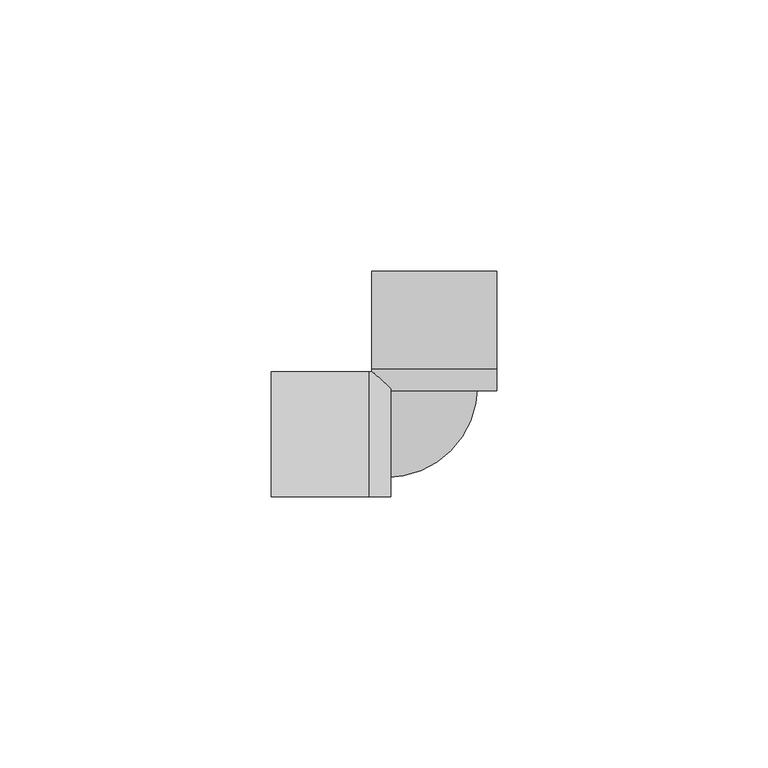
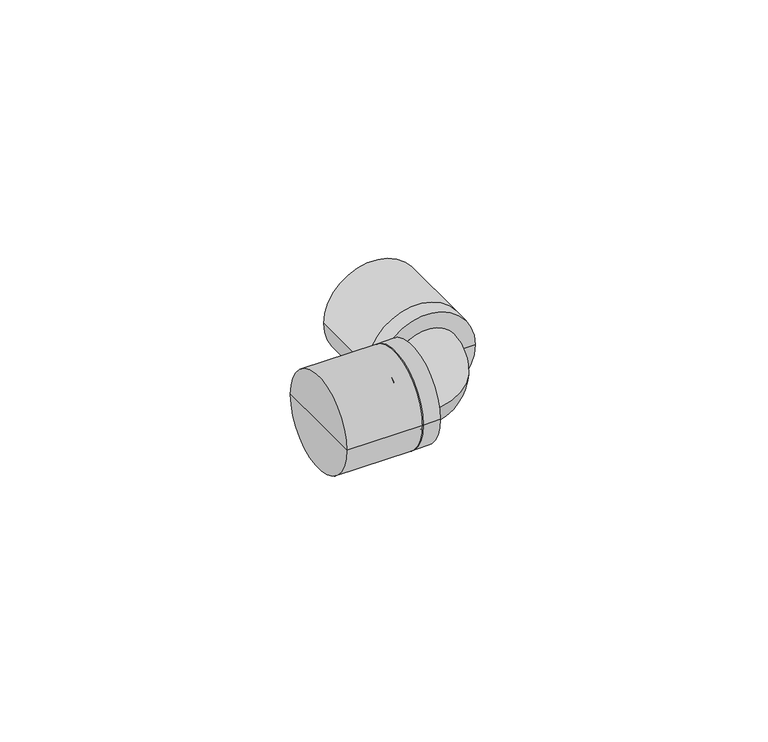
"""IFC4 building model written with IfcOpenShell, lengths in millimetres: pipe fitting geometry, KAN-therm Push 18x2 kolano : KAN-therm Push 18x2 kolano."""

from ifc_helpers import new_model, si_unit, point, frame, origin, place, context, project, spatial, circle_curve, ellipse_curve, trimmed, source, transform, mapped, element, save
from ifc_brep_helpers import plane_surface, cylinder_surface, revolved_surface, advanced_brep


def pipe_fitting_20f2416b(model_context):
    return source(origin(), model_context, "Body", "AdvancedBrep", [
        advanced_brep(
        [(-12.0, 11.5, 0.0), (-12.0, -11.5, 0.0), (-12.0, 0.0, 0.0), (-8.0, 11.5, 0.0), (-8.0, -11.5, 0.0), (-8.0, 0.0, 0.0)],
        [
            (0, 1, circle_curve(frame((-12.0, 0.0, 0.0), z_axis=(-1.0, 0.0, 0.0), x_axis=(0.0, -1.0, 0.0)), 11.5)),
            (1, 2),
            (2, 0),
            (1, 0, circle_curve(frame((-12.0, 0.0, 0.0), z_axis=(-1.0, 0.0, 0.0), x_axis=(0.0, -1.0, 0.0)), 11.5)),
            (3, 4, circle_curve(frame((-8.0, 0.0, 0.0), z_axis=(-1.0, 0.0, 0.0), x_axis=(0.0, -1.0, 0.0)), 11.5)),
            (4, 1),
            (0, 3),
            (4, 3, circle_curve(frame((-8.0, 0.0, 0.0), z_axis=(-1.0, 0.0, 0.0), x_axis=(0.0, -1.0, 0.0)), 11.5)),
            (5, 4),
            (3, 5),
        ],
        [
            plane_surface(frame((-12.0, 0.0, 0.0), z_axis=(-1.0, 0.0, 0.0), x_axis=(0.0, -1.0, 0.0))),
            cylinder_surface(frame((-2007.0, 0.0, 0.0), z_axis=(1.0, 0.0, 0.0), x_axis=(0.0, -1.0, 0.0)), 11.5),
            plane_surface(frame((-8.0, 0.0, 0.0), z_axis=(1.0, 0.0, 0.0), x_axis=(0.0, -1.0, 0.0))),
        ],
        [
            (0, [[1, 2, 3]]),
            (0, [[4, -3, -2]]),
            (1, [[5, 6, -1, 7]]),
            (1, [[8, -7, -4, -6]]),
            (2, [[9, -5, 10]]),
            (2, [[-10, -8, -9]]),
        ],
    ),
        advanced_brep(
        [(-30.0, 11.5, 0.0), (-30.0, -11.5, 0.0), (-30.0, 0.0, 0.0), (-12.0, 11.5, 0.0), (-12.0, -11.5, 0.0), (-12.0, 0.0, 0.0)],
        [
            (0, 1, circle_curve(frame((-30.0, 0.0, 0.0), z_axis=(-1.0, 0.0, 0.0), x_axis=(0.0, -1.0, 0.0)), 11.5)),
            (1, 2),
            (2, 0),
            (1, 0, circle_curve(frame((-30.0, 0.0, 0.0), z_axis=(-1.0, 0.0, 0.0), x_axis=(0.0, -1.0, 0.0)), 11.5)),
            (3, 4, circle_curve(frame((-12.0, 0.0, 0.0), z_axis=(-1.0, 0.0, 0.0), x_axis=(0.0, -1.0, 0.0)), 11.5)),
            (4, 1),
            (0, 3),
            (4, 3, circle_curve(frame((-12.0, 0.0, 0.0), z_axis=(-1.0, 0.0, 0.0), x_axis=(0.0, -1.0, 0.0)), 11.5)),
            (5, 4),
            (3, 5),
        ],
        [
            plane_surface(frame((-30.0, 0.0, 0.0), z_axis=(-1.0, 0.0, 0.0), x_axis=(0.0, -1.0, 0.0))),
            cylinder_surface(frame((-2007.0, 0.0, 0.0), z_axis=(1.0, 0.0, 0.0), x_axis=(0.0, -1.0, 0.0)), 11.5),
            plane_surface(frame((-12.0, 0.0, 0.0), z_axis=(1.0, 0.0, 0.0), x_axis=(0.0, -1.0, 0.0))),
        ],
        [
            (0, [[1, 2, 3]]),
            (0, [[4, -3, -2]]),
            (1, [[5, 6, -1, 7]]),
            (1, [[8, -7, -4, -6]]),
            (2, [[9, -5, 10]]),
            (2, [[-10, -8, -9]]),
        ],
    ),
        advanced_brep(
        [(11.5, 12.0, 0.0), (-11.5, 12.0, 0.0), (0.0, 12.0, 0.0), (11.5, 8.0, 0.0), (-11.5, 8.0, 0.0), (0.0, 8.0, 0.0)],
        [
            (0, 1, circle_curve(frame((0.0, 12.0, 0.0), z_axis=(0.0, 1.0, 0.0), x_axis=(-1.0, 0.0, 0.0)), 11.5)),
            (1, 2),
            (2, 0),
            (1, 0, circle_curve(frame((0.0, 12.0, 0.0), z_axis=(0.0, 1.0, 0.0), x_axis=(-1.0, 0.0, 0.0)), 11.5)),
            (3, 4, circle_curve(frame((0.0, 8.0, 0.0), z_axis=(0.0, 1.0, 0.0), x_axis=(-1.0, 0.0, 0.0)), 11.5)),
            (4, 1),
            (0, 3),
            (4, 3, circle_curve(frame((0.0, 8.0, 0.0), z_axis=(0.0, 1.0, 0.0), x_axis=(-1.0, 0.0, 0.0)), 11.5)),
            (5, 4),
            (3, 5),
        ],
        [
            plane_surface(frame((0.0, 12.0, 0.0), z_axis=(0.0, 1.0, 0.0), x_axis=(-1.0, 0.0, 0.0))),
            cylinder_surface(frame((0.0, 2007.0, 0.0), z_axis=(0.0, -1.0, 0.0), x_axis=(-1.0, 0.0, 0.0)), 11.5),
            plane_surface(frame((0.0, 8.0, 0.0), z_axis=(0.0, -1.0, 0.0), x_axis=(-1.0, 0.0, 0.0))),
        ],
        [
            (0, [[1, 2, 3]]),
            (0, [[4, -3, -2]]),
            (1, [[5, 6, -1, 7]]),
            (1, [[8, -7, -4, -6]]),
            (2, [[9, -5, 10]]),
            (2, [[-10, -8, -9]]),
        ],
    ),
        advanced_brep(
        [(11.5, 30.0, 0.0), (-11.5, 30.0, 0.0), (0.0, 30.0, 0.0), (11.5, 12.0, 0.0), (-11.5, 12.0, 0.0), (0.0, 12.0, 0.0)],
        [
            (0, 1, circle_curve(frame((0.0, 30.0, 0.0), z_axis=(0.0, 1.0, 0.0), x_axis=(-1.0, 0.0, 0.0)), 11.5)),
            (1, 2),
            (2, 0),
            (1, 0, circle_curve(frame((0.0, 30.0, 0.0), z_axis=(0.0, 1.0, 0.0), x_axis=(-1.0, 0.0, 0.0)), 11.5)),
            (3, 4, circle_curve(frame((0.0, 12.0, 0.0), z_axis=(0.0, 1.0, 0.0), x_axis=(-1.0, 0.0, 0.0)), 11.5)),
            (4, 1),
            (0, 3),
            (4, 3, circle_curve(frame((0.0, 12.0, 0.0), z_axis=(0.0, 1.0, 0.0), x_axis=(-1.0, 0.0, 0.0)), 11.5)),
            (5, 4),
            (3, 5),
        ],
        [
            plane_surface(frame((0.0, 30.0, 0.0), z_axis=(0.0, 1.0, 0.0), x_axis=(-1.0, 0.0, 0.0))),
            cylinder_surface(frame((0.0, 2007.0, 0.0), z_axis=(0.0, -1.0, 0.0), x_axis=(-1.0, 0.0, 0.0)), 11.5),
            plane_surface(frame((0.0, 12.0, 0.0), z_axis=(0.0, -1.0, 0.0), x_axis=(-1.0, 0.0, 0.0))),
        ],
        [
            (0, [[1, 2, 3]]),
            (0, [[4, -3, -2]]),
            (1, [[5, 6, -1, 7]]),
            (1, [[8, -7, -4, -6]]),
            (2, [[9, -5, 10]]),
            (2, [[-10, -8, -9]]),
        ],
    ),
        advanced_brep(
        [(-8.0, 12.0, 0.0), (8.0, 12.0, 0.0), (-12.0, 8.0, 0.0), (-12.0, -8.0, 0.0), (-9.0, -8.0, 0.0), (-9.0, 8.0, 0.0), (-8.0, 9.0, 0.0), (8.0, 9.0, 0.0)],
        [
            (0, 1, circle_curve(frame((0.0, 12.0, 0.0), z_axis=(0.0, 1.0, 0.0), x_axis=(1.0, 0.0, 0.0)), 8.0)),
            (1, 0, circle_curve(frame((0.0, 12.0, 0.0), z_axis=(0.0, 1.0, 0.0), x_axis=(1.0, 0.0, 0.0)), 8.0)),
            (2, 3, circle_curve(frame((-12.0, 0.0, 0.0), z_axis=(-1.0, 0.0, 0.0), x_axis=(0.0, -1.0, 0.0)), 8.0)),
            (3, 2, circle_curve(frame((-12.0, 0.0, 0.0), z_axis=(-1.0, 0.0, 0.0), x_axis=(0.0, -1.0, 0.0)), 8.0)),
            (4, 5, circle_curve(frame((-9.0, 0.0, 0.0), z_axis=(-1.0, 0.0, 0.0), x_axis=(0.0, -1.0, 0.0)), 8.0)),
            (5, 2),
            (3, 4),
            (5, 4, circle_curve(frame((-9.0, 0.0, 0.0), z_axis=(-1.0, 0.0, 0.0), x_axis=(0.0, -1.0, 0.0)), 8.0)),
            (0, 6),
            (6, 7, circle_curve(frame((0.0, 9.0, 0.0), z_axis=(0.0, 1.0, 0.0), x_axis=(1.0, 0.0, 0.0)), 8.0)),
            (7, 1),
            (7, 6, circle_curve(frame((0.0, 9.0, 0.0), z_axis=(0.0, 1.0, 0.0), x_axis=(1.0, 0.0, 0.0)), 8.0)),
            (4, 7, circle_curve(frame((-9.0, 9.0, 0.0), z_axis=(0.0, 0.0, 1.0), x_axis=(1.0, 0.0, 0.0)), 17.0)),
            (6, 5, circle_curve(frame((-9.0, 9.0, 0.0), z_axis=(0.0, 0.0, -1.0), x_axis=(1.0, 0.0, 0.0)), 1.0)),
        ],
        [
            plane_surface(frame((0.0, 12.0, 0.0), z_axis=(0.0, 1.0, 0.0), x_axis=(0.0, 0.0, 1.0))),
            plane_surface(frame((-12.0, 0.0, 0.0), z_axis=(-1.0, 0.0, 0.0), x_axis=(0.0, 0.0, 1.0))),
            cylinder_surface(frame((-9.0, 0.0, 0.0), z_axis=(1.0, 0.0, 0.0), x_axis=(0.0, -1.0, 0.0)), 8.0),
            cylinder_surface(frame((0.0, 12.0, 0.0), z_axis=(0.0, 1.0, 0.0), x_axis=(1.0, 0.0, 0.0)), 8.0),
            revolved_surface(trimmed(ellipse_curve(frame((0.0, 9.0, 0.0), z_axis=(0.0, 1.0, 0.0), x_axis=(1.0, 0.0, 0.0)), 8.0, 8.0), [point((-8.0, 9.0, 0.0))], [point((8.0, 9.0, 0.0))], True, "CARTESIAN"), (-9.0, 9.0, 0.0), (0.0, 0.0, -1.0)),
            revolved_surface(trimmed(ellipse_curve(frame((0.0, 9.0, 0.0), z_axis=(0.0, 1.0, 0.0), x_axis=(1.0, 0.0, 0.0)), 8.0, 8.0), [point((8.0, 9.0, 0.0))], [point((-8.0, 9.0, 0.0))], True, "CARTESIAN"), (-9.0, 9.0, 0.0), (0.0, 0.0, -1.0)),
        ],
        [
            (0, [[1, 2]]),
            (1, [[3, 4]]),
            (2, [[5, 6, -4, 7]]),
            (2, [[8, -7, -3, -6]]),
            (3, [[-1, 9, 10, 11]]),
            (3, [[-2, -11, 12, -9]]),
            (4, [[13, -10, 14, -5]]),
            (5, [[-14, -12, -13, -8]]),
        ],
    ),
    ])


if __name__ == "__main__":
    model = new_model("IFC4")
    model_context = context("Model", 3, world=origin())
    ifc_project = project(units=[si_unit("LENGTHUNIT", "METRE", prefix="MILLI")], contexts=[model_context])
    site = spatial("IfcSite", under=ifc_project)
    building = spatial("IfcBuilding", under=site)
    placement = place(None, origin())
    pipe_fitting_shape = pipe_fitting_20f2416b(model_context)
    element("IfcPipeFitting", 1, ObjectType="KAN-therm Push 18x2 kolano : KAN-therm Push 18x2 kolano", at=placement, inside=building, context=model_context, shape_type="MappedRepresentation", body=[
        mapped(pipe_fitting_shape, transform((0.0, 0.0, 0.0), x_axis=(1.0, 0.0, 0.0), y_axis=(0.0, 1.0, 0.0), z_axis=(0.0, 0.0, 1.0))),
    ])
    save(model, "model.ifc")
